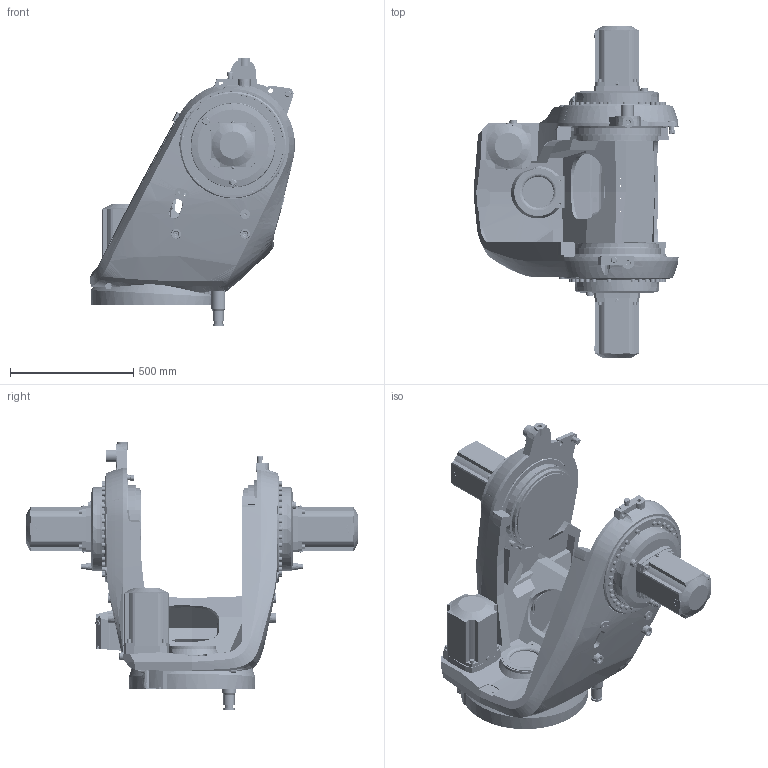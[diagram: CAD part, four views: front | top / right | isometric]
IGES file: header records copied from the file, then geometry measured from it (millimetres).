
Start section: SolidWorks IGES file using analytic representation for surfaces
Global section: file name: C:\Users\SEJAOLS6\OneDrive - ABB\Documents\SAP\7720\7720_Lightweight_models\IRB7720-LID-SW_480kg-310_OC_01_SW_J\IRB7720-LID-SW_480kg-310_OC_01_IGES_J\IRB77X0_All_OC_00_LINK01_CAD.igs; native system: SolidWorks 2024; preprocessor: SolidWorks 2024; author: SEJAOLS6; date: 260127.081424; units: millimetre
Bounding box: 830.89 x 1345.2 x 1083.5 mm (x, y, z)
Surface area: 4433240.7 mm2 (no closed solid volume)
Topology: 0 solids, 0 shells, 1939 faces, 34524 edges, 34506 vertices
Faces by surface type: bspline 1122, revolution 817
